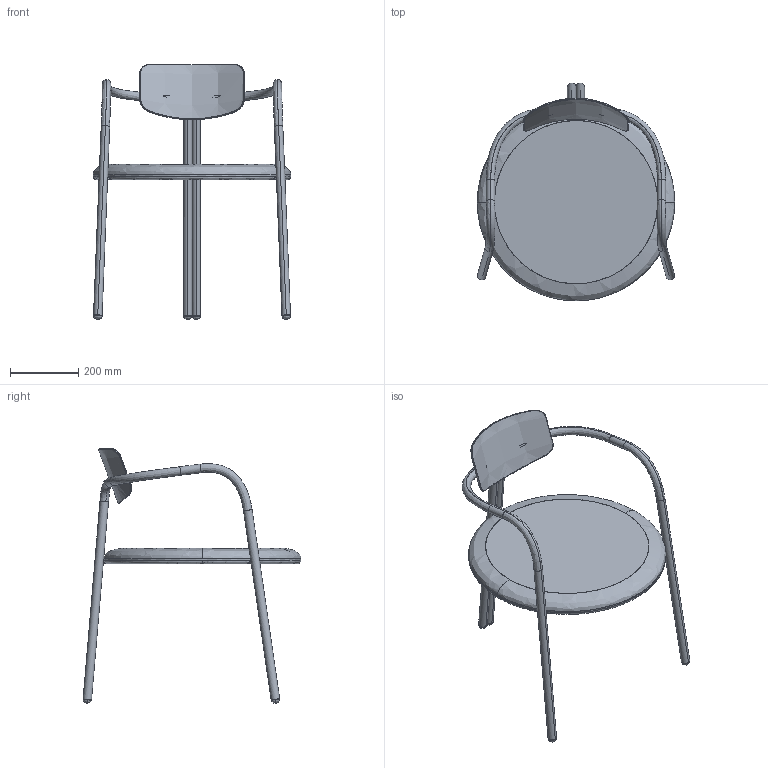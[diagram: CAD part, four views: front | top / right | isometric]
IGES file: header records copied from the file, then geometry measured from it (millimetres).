
Start section: SolidWorks IGES file using analytic representation for surfaces
Global section: file name: \\utenti\Dati Utenti\Tecnico\DC\2D - 3D per sito\3D\DeCastelli-3D-Via Veneto.igs; native system: SolidWorks 2022; preprocessor: SolidWorks 2022; author: Simonep; date: 240729.120942; units: millimetre
Bounding box: 578 x 638.33 x 745.5 mm (x, y, z)
Surface area: 1148018.1 mm2 (no closed solid volume)
Topology: 0 solids, 0 shells, 201 faces, 3159 edges, 3159 vertices
Faces by surface type: bspline 126, revolution 75
